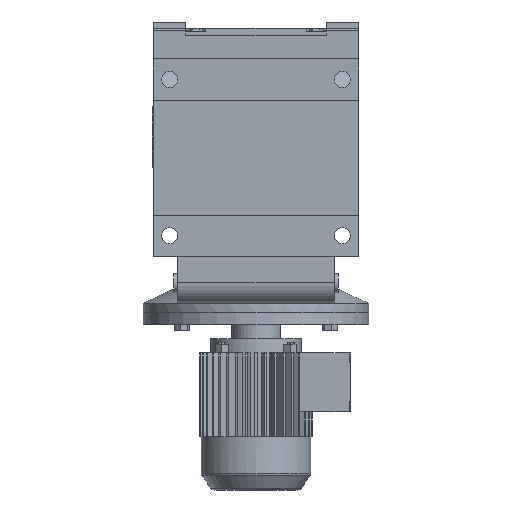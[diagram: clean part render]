
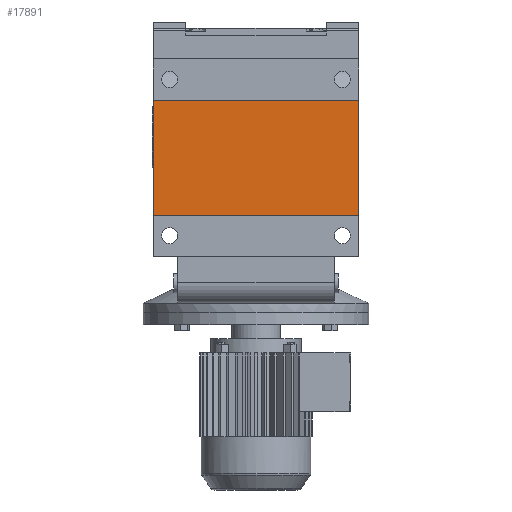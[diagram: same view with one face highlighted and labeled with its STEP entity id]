
A CAD part, front view. The second image highlights one B-rep face of the part: STEP entity #17891.
In plain terms, the highlighted planar face has unit normal (0, -1, 0).
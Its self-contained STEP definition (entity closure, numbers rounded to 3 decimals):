
#8791 = PLANE('',#8792);
#8792 = AXIS2_PLACEMENT_3D('',#8793,#8794,#8795);
#8793 = CARTESIAN_POINT('',(-250.,-380.25,226.));
#8794 = DIRECTION('',(1.,0.,0.));
#8795 = DIRECTION('',(0.,0.,-1.));
#12209 = VERTEX_POINT('',#12210);
#12210 = CARTESIAN_POINT('',(-250.,-434.25,-190.));
#12224 = PLANE('',#12225);
#12225 = AXIS2_PLACEMENT_3D('',#12226,#12227,#12228);
#12226 = CARTESIAN_POINT('',(250.,-434.25,-190.));
#12227 = DIRECTION('',(0.,0.,-1.));
#12228 = DIRECTION('',(-1.,0.,0.));
#12236 = EDGE_CURVE('',#12237,#12209,#12239,.T.);
#12237 = VERTEX_POINT('',#12238);
#12238 = CARTESIAN_POINT('',(-250.,-434.25,90.));
#12239 = SURFACE_CURVE('',#12240,(#12244,#12251),.PCURVE_S1.);
#12240 = LINE('',#12241,#12242);
#12241 = CARTESIAN_POINT('',(-250.,-434.25,90.));
#12242 = VECTOR('',#12243,1.);
#12243 = DIRECTION('',(0.,0.,-1.));
#12244 = PCURVE('',#8791,#12245);
#12245 = DEFINITIONAL_REPRESENTATION('',(#12246),#12250);
#12246 = LINE('',#12247,#12248);
#12247 = CARTESIAN_POINT('',(136.,-54.));
#12248 = VECTOR('',#12249,1.);
#12249 = DIRECTION('',(1.,0.));
#12250 = ( GEOMETRIC_REPRESENTATION_CONTEXT(2) 
PARAMETRIC_REPRESENTATION_CONTEXT() REPRESENTATION_CONTEXT('2D SPACE',''
  ) );
#12251 = PCURVE('',#12252,#12257);
#12252 = PLANE('',#12253);
#12253 = AXIS2_PLACEMENT_3D('',#12254,#12255,#12256);
#12254 = CARTESIAN_POINT('',(-190.5,-434.25,230.));
#12255 = DIRECTION('',(0.,-1.,0.));
#12256 = DIRECTION('',(0.,0.,-1.));
#12257 = DEFINITIONAL_REPRESENTATION('',(#12258),#12262);
#12258 = LINE('',#12259,#12260);
#12259 = CARTESIAN_POINT('',(140.,-59.5));
#12260 = VECTOR('',#12261,1.);
#12261 = DIRECTION('',(1.,0.));
#12262 = ( GEOMETRIC_REPRESENTATION_CONTEXT(2) 
PARAMETRIC_REPRESENTATION_CONTEXT() REPRESENTATION_CONTEXT('2D SPACE',''
  ) );
#12280 = PLANE('',#12281);
#12281 = AXIS2_PLACEMENT_3D('',#12282,#12283,#12284);
#12282 = CARTESIAN_POINT('',(250.,-434.25,90.));
#12283 = DIRECTION('',(0.,0.,1.));
#12284 = DIRECTION('',(1.,0.,0.));
#12749 = PLANE('',#12750);
#12750 = AXIS2_PLACEMENT_3D('',#12751,#12752,#12753);
#12751 = CARTESIAN_POINT('',(250.,-380.25,226.));
#12752 = DIRECTION('',(1.,0.,0.));
#12753 = DIRECTION('',(0.,0.,-1.));
#17385 = VERTEX_POINT('',#17386);
#17386 = CARTESIAN_POINT('',(250.,-434.25,-190.));
#17407 = EDGE_CURVE('',#17385,#12209,#17408,.T.);
#17408 = SURFACE_CURVE('',#17409,(#17413,#17420),.PCURVE_S1.);
#17409 = LINE('',#17410,#17411);
#17410 = CARTESIAN_POINT('',(250.,-434.25,-190.));
#17411 = VECTOR('',#17412,1.);
#17412 = DIRECTION('',(-1.,0.,0.));
#17413 = PCURVE('',#12224,#17414);
#17414 = DEFINITIONAL_REPRESENTATION('',(#17415),#17419);
#17415 = LINE('',#17416,#17417);
#17416 = CARTESIAN_POINT('',(0.,0.));
#17417 = VECTOR('',#17418,1.);
#17418 = DIRECTION('',(1.,0.));
#17419 = ( GEOMETRIC_REPRESENTATION_CONTEXT(2) 
PARAMETRIC_REPRESENTATION_CONTEXT() REPRESENTATION_CONTEXT('2D SPACE',''
  ) );
#17420 = PCURVE('',#12252,#17421);
#17421 = DEFINITIONAL_REPRESENTATION('',(#17422),#17426);
#17422 = LINE('',#17423,#17424);
#17423 = CARTESIAN_POINT('',(420.,440.5));
#17424 = VECTOR('',#17425,1.);
#17425 = DIRECTION('',(0.,-1.));
#17426 = ( GEOMETRIC_REPRESENTATION_CONTEXT(2) 
PARAMETRIC_REPRESENTATION_CONTEXT() REPRESENTATION_CONTEXT('2D SPACE',''
  ) );
#17702 = EDGE_CURVE('',#17703,#12237,#17705,.T.);
#17703 = VERTEX_POINT('',#17704);
#17704 = CARTESIAN_POINT('',(250.,-434.25,90.));
#17705 = SURFACE_CURVE('',#17706,(#17710,#17717),.PCURVE_S1.);
#17706 = LINE('',#17707,#17708);
#17707 = CARTESIAN_POINT('',(250.,-434.25,90.));
#17708 = VECTOR('',#17709,1.);
#17709 = DIRECTION('',(-1.,0.,0.));
#17710 = PCURVE('',#12280,#17711);
#17711 = DEFINITIONAL_REPRESENTATION('',(#17712),#17716);
#17712 = LINE('',#17713,#17714);
#17713 = CARTESIAN_POINT('',(0.,0.));
#17714 = VECTOR('',#17715,1.);
#17715 = DIRECTION('',(-1.,0.));
#17716 = ( GEOMETRIC_REPRESENTATION_CONTEXT(2) 
PARAMETRIC_REPRESENTATION_CONTEXT() REPRESENTATION_CONTEXT('2D SPACE',''
  ) );
#17717 = PCURVE('',#12252,#17718);
#17718 = DEFINITIONAL_REPRESENTATION('',(#17719),#17723);
#17719 = LINE('',#17720,#17721);
#17720 = CARTESIAN_POINT('',(140.,440.5));
#17721 = VECTOR('',#17722,1.);
#17722 = DIRECTION('',(0.,-1.));
#17723 = ( GEOMETRIC_REPRESENTATION_CONTEXT(2) 
PARAMETRIC_REPRESENTATION_CONTEXT() REPRESENTATION_CONTEXT('2D SPACE',''
  ) );
#17891 = ADVANCED_FACE('',(#17892),#12252,.T.);
#17892 = FACE_BOUND('',#17893,.T.);
#17893 = EDGE_LOOP('',(#17894,#17895,#17896,#17917));
#17894 = ORIENTED_EDGE('',*,*,#12236,.T.);
#17895 = ORIENTED_EDGE('',*,*,#17407,.F.);
#17896 = ORIENTED_EDGE('',*,*,#17897,.F.);
#17897 = EDGE_CURVE('',#17703,#17385,#17898,.T.);
#17898 = SURFACE_CURVE('',#17899,(#17903,#17910),.PCURVE_S1.);
#17899 = LINE('',#17900,#17901);
#17900 = CARTESIAN_POINT('',(250.,-434.25,90.));
#17901 = VECTOR('',#17902,1.);
#17902 = DIRECTION('',(0.,0.,-1.));
#17903 = PCURVE('',#12252,#17904);
#17904 = DEFINITIONAL_REPRESENTATION('',(#17905),#17909);
#17905 = LINE('',#17906,#17907);
#17906 = CARTESIAN_POINT('',(140.,440.5));
#17907 = VECTOR('',#17908,1.);
#17908 = DIRECTION('',(1.,0.));
#17909 = ( GEOMETRIC_REPRESENTATION_CONTEXT(2) 
PARAMETRIC_REPRESENTATION_CONTEXT() REPRESENTATION_CONTEXT('2D SPACE',''
  ) );
#17910 = PCURVE('',#12749,#17911);
#17911 = DEFINITIONAL_REPRESENTATION('',(#17912),#17916);
#17912 = LINE('',#17913,#17914);
#17913 = CARTESIAN_POINT('',(136.,-54.));
#17914 = VECTOR('',#17915,1.);
#17915 = DIRECTION('',(1.,0.));
#17916 = ( GEOMETRIC_REPRESENTATION_CONTEXT(2) 
PARAMETRIC_REPRESENTATION_CONTEXT() REPRESENTATION_CONTEXT('2D SPACE',''
  ) );
#17917 = ORIENTED_EDGE('',*,*,#17702,.T.);
